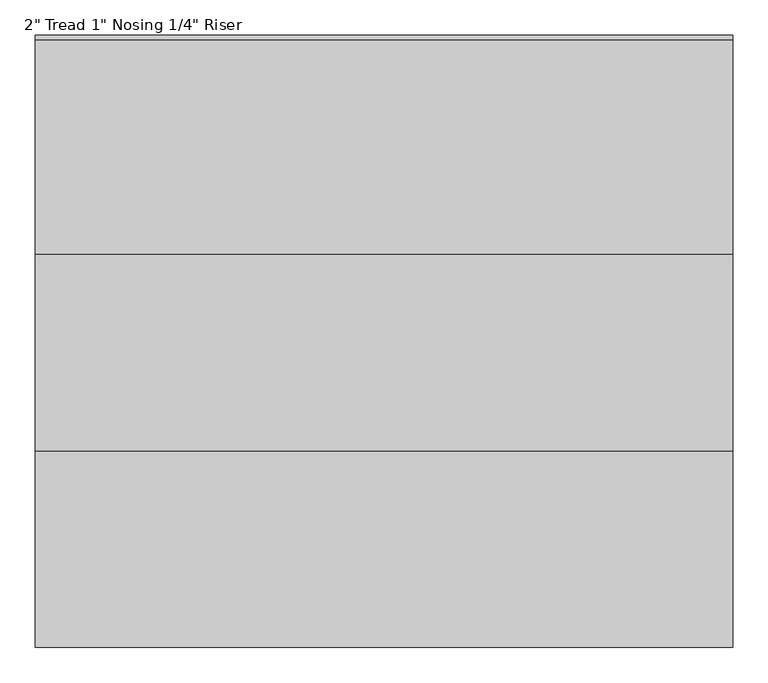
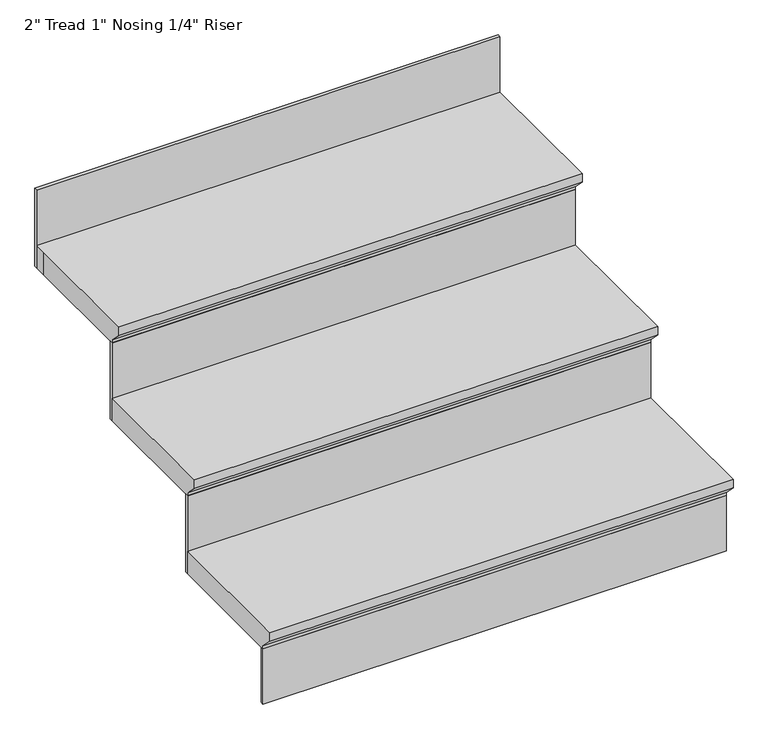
"""IFC4 building model written with IfcOpenShell, lengths in millimetres: stair flight geometry."""

from ifc_helpers import new_model, si_unit, origin, place, context, project, spatial, faceted_brep, source, transform, mapped, element, save


def stair_flight_88fc5b64(model_context):
    return source(origin(), model_context, "Body", "Brep", [
        faceted_brep([(-3173.5663287, 2721.6563085, 157.4131579), (-3173.5663287, 2721.6563085, 176.4631579), (-4164.1663287, 2721.6563085, 176.4631579), (-4164.1663287, 2721.6563085, 157.4131579), (-3173.5663287, 2747.0563085, 132.0131579), (-4164.1663287, 2747.0563085, 132.0131579), (-3173.5663287, 3026.4563085, 176.4631579), (-4164.1663287, 3026.4563085, 176.4631579), (-4164.1663287, 2747.0563085, 125.6631579), (-4164.1663287, 3026.4563085, 125.6631579), (-3173.5663287, 3026.4563085, 125.6631579), (-3173.5663287, 2747.0563085, 125.6631579)], [[[0, 1, 2, 3]], [[4, 0, 3, 5]], [[2, 1, 6, 7]], [[8, 9, 10, 11]], [[2, 7, 9, 8, 5, 3]], [[8, 11, 4, 5]], [[6, 1, 0, 4, 11, 10]], [[7, 6, 10, 9]]]),
        faceted_brep([(-3173.5663287, 2747.0563085, 125.6631579), (-3173.5663287, 2747.0563085, 0.0), (-3173.5663287, 2753.4063085, 0.0), (-3173.5663287, 2753.4063085, 125.6631579), (-4164.1663287, 2747.0563085, 125.6631579), (-4164.1663287, 2753.4063085, 125.6631579), (-4164.1663287, 2753.4063085, 0.0), (-4164.1663287, 2747.0563085, 0.0)], [[[0, 1, 2, 3]], [[4, 5, 6, 7]], [[1, 0, 4, 7]], [[2, 1, 7, 6]], [[3, 2, 6, 5]], [[0, 3, 5, 4]]]),
        faceted_brep([(-3173.5663287, 3026.4563085, 302.1263158), (-3173.5663287, 3026.4563085, 125.6631579), (-3173.5663287, 3032.8063085, 125.6631579), (-3173.5663287, 3032.8063085, 302.1263158), (-4164.1663287, 3026.4563085, 302.1263158), (-4164.1663287, 3032.8063085, 302.1263158), (-4164.1663287, 3032.8063085, 125.6631579), (-4164.1663287, 3026.4563085, 125.6631579)], [[[0, 1, 2, 3]], [[4, 5, 6, 7]], [[1, 0, 4, 7]], [[2, 1, 7, 6]], [[3, 2, 6, 5]], [[0, 3, 5, 4]]]),
        faceted_brep([(-4164.1663287, 3001.0563085, 352.9263158), (-3173.5663287, 3001.0563085, 352.9263158), (-3173.5663287, 3305.8563085, 352.9263158), (-4164.1663287, 3305.8563085, 352.9263158), (-4164.1663287, 3026.4563085, 302.1263158), (-4164.1663287, 3305.8563085, 302.1263158), (-3173.5663287, 3305.8563085, 302.1263158), (-3173.5663287, 3026.4563085, 302.1263158), (-4164.1663287, 3026.4563085, 308.4763158), (-4164.1663287, 3001.0563085, 333.8763158), (-3173.5663287, 3026.4563085, 308.4763158), (-3173.5663287, 3001.0563085, 333.8763158)], [[[0, 1, 2, 3]], [[4, 5, 6, 7]], [[0, 3, 5, 4, 8, 9]], [[4, 7, 10, 8]], [[2, 1, 11, 10, 7, 6]], [[3, 2, 6, 5]], [[11, 1, 0, 9]], [[10, 11, 9, 8]]]),
        faceted_brep([(-3173.5663287, 3585.2563085, 655.0526316), (-3173.5663287, 3585.2563085, 478.5894737), (-3173.5663287, 3591.6063085, 478.5894737), (-3173.5663287, 3591.6063085, 655.0526316), (-4164.1663287, 3585.2563085, 655.0526316), (-4164.1663287, 3591.6063085, 655.0526316), (-4164.1663287, 3591.6063085, 478.5894737), (-4164.1663287, 3585.2563085, 478.5894737)], [[[0, 1, 2, 3]], [[4, 5, 6, 7]], [[1, 0, 4, 7]], [[2, 1, 7, 6]], [[3, 2, 6, 5]], [[0, 3, 5, 4]]]),
        faceted_brep([(-3173.5663287, 3305.8563085, 478.5894737), (-3173.5663287, 3305.8563085, 302.1263158), (-3173.5663287, 3312.2063085, 302.1263158), (-3173.5663287, 3312.2063085, 478.5894737), (-4164.1663287, 3305.8563085, 478.5894737), (-4164.1663287, 3312.2063085, 478.5894737), (-4164.1663287, 3312.2063085, 302.1263158), (-4164.1663287, 3305.8563085, 302.1263158)], [[[0, 1, 2, 3]], [[4, 5, 6, 7]], [[1, 0, 4, 7]], [[2, 1, 7, 6]], [[3, 2, 6, 5]], [[0, 3, 5, 4]]]),
        faceted_brep([(-4164.1663287, 3585.2563085, 529.3894737), (-4164.1663287, 3559.8563085, 529.3894737), (-4164.1663287, 3280.4563085, 529.3894737), (-3173.5663287, 3280.4563085, 529.3894737), (-3173.5663287, 3585.2563085, 529.3894737), (-4164.1663287, 3559.8563085, 478.5894737), (-4164.1663287, 3585.2563085, 478.5894737), (-3173.5663287, 3585.2563085, 478.5894737), (-3173.5663287, 3305.8563085, 478.5894737), (-4164.1663287, 3305.8563085, 478.5894737), (-4164.1663287, 3305.8563085, 484.9394737), (-4164.1663287, 3280.4563085, 510.3394737), (-3173.5663287, 3305.8563085, 484.9394737), (-3173.5663287, 3280.4563085, 510.3394737)], [[[0, 1, 2, 3, 4]], [[5, 6, 7, 8, 9]], [[1, 0, 6, 5]], [[2, 1, 5, 9, 10, 11]], [[9, 8, 12, 10]], [[4, 3, 13, 12, 8, 7]], [[0, 4, 7, 6]], [[13, 3, 2, 11]], [[12, 13, 11, 10]]]),
    ])


if __name__ == "__main__":
    model = new_model("IFC4")
    model_context = context("Model", 3, world=origin())
    ifc_project = project(units=[si_unit("LENGTHUNIT", "METRE", prefix="MILLI")], contexts=[model_context])
    site = spatial("IfcSite", under=ifc_project)
    building = spatial("IfcBuilding", under=site)
    placement = place(None, origin())
    stair_flight_shape = stair_flight_88fc5b64(model_context)
    element("IfcStairFlight", 1, ObjectType="2\" Tread 1\" Nosing 1/4\" Riser", at=placement, inside=building, context=model_context, shape_type="MappedRepresentation", body=[
        mapped(stair_flight_shape, transform((0.0, 0.0, 0.0), x_axis=(1.0, 0.0, 0.0), y_axis=(0.0, 1.0, 0.0), z_axis=(0.0, 0.0, 1.0))),
    ])
    save(model, "model.ifc")
